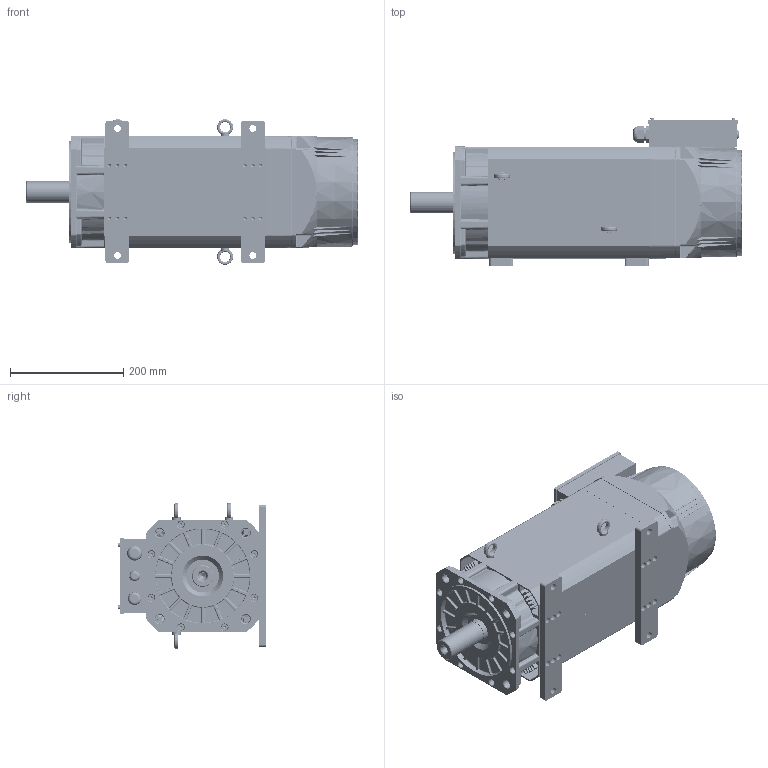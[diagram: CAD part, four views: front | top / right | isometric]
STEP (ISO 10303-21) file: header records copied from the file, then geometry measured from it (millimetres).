
FILE_DESCRIPTION (( 'STEP AP203' ), '1' );
FILE_NAME ('200H-B35-38J俋倛芞.STEP', '2022-04-15T07:56:52', ( '' ), ( '' ), 'SwSTEP 2.0', 'SolidWorks 2016', '' );
FILE_SCHEMA (( 'CONFIG_CONTROL_DESIGN' ));
Length unit declared in the file: millimetre
Products named in the file (28): 晤鎢ん啣; 200ヶ裔-171102; 200H-B35-38J俋倛芞; M24X1.5蹟杶; 接线盒风罩后盖组件; 200諉盄翐; 晤鎢ん隅砱梓ワ; cross recessed cheese head screws gb_GB_CROSS_SCREWS_TYPE2 M4X10-10  H type-N; 200粣3.7kw; plain washers-n series-grade a gb_GB_FASTENER_WASHER_PWNA 4; 200諉盄碟裔躇猾菜; 200呿蹋瑞欶; 200諉盄碟裔; 200諉盄碟窒璃; 200菁褐; ヶ裔粣郪璃; 晤鎢ん橈埽翐; UVW隅砱梓ワ; 200綴裔; M8X12裂遠; 200瑤脣ヶ堤盄諉盄碟; 200H儂褲1; cross recessed pan head screws gb_GB_CROSS_SCREWS_TYPE1 M4X5-5  H type-N; M16X1.5蹟杶; spring lock washers--normal type gb_GB_FASTENER_WASHER_SW 4; M20X1.5蹟杶; 200风机过线圈; cross recessed pan head screws gb_GB_CROSS_SCREWS_TYPE1 M3X12-12  H type-N
Assembly tree (46 placements, depth 4):
  200H-B35-38J俋倛芞
    200H儂褲1
    ヶ裔粣郪璃
      200ヶ裔-171102
      200粣3.7kw
    接线盒风罩后盖组件
      200綴裔
      200呿蹋瑞欶
      200諉盄碟窒璃
        200瑤脣ヶ堤盄諉盄碟
        M24X1.5蹟杶
        200风机过线圈
        M20X1.5蹟杶
        M16X1.5蹟杶
        200諉盄翐
        晤鎢ん橈埽翐  x4
        晤鎢ん啣
        200諉盄碟裔躇猾菜
        200諉盄碟裔
        UVW隅砱梓ワ
        晤鎢ん隅砱梓ワ
        cross recessed cheese head screws gb_GB_CROSS_SCREWS_TYPE2 M4X10-10  H type-N  x4
        spring lock washers--normal type gb_GB_FASTENER_WASHER_SW 4  x4
        plain washers-n series-grade a gb_GB_FASTENER_WASHER_PWNA 4  x4
        cross recessed pan head screws gb_GB_CROSS_SCREWS_TYPE1 M3X12-12  H type-N  x4
        cross recessed pan head screws gb_GB_CROSS_SCREWS_TYPE1 M4X5-5  H type-N  x2
    M8X12裂遠  x3
    200菁褐  x2
Bounding box: 585.5 x 261.85 x 257 mm (x, y, z)
Volume: 4536640.5 mm3; surface area: 1641851.8 mm2
Topology: 43 solids, 43 shells, 5439 faces, 13528 edges, 8159 vertices
Faces by surface type: bspline 2052, cylinder 1329, plane 1150, cone 757, torus 139, sphere 12
Entity records: 214603 total; most frequent: CARTESIAN_POINT 103709, ORIENTED_EDGE 24990, DIRECTION 19408, EDGE_CURVE 12495, AXIS2_PLACEMENT_3D 7797, VERTEX_POINT 7581, EDGE_LOOP 5486, FACE_OUTER_BOUND 5077
